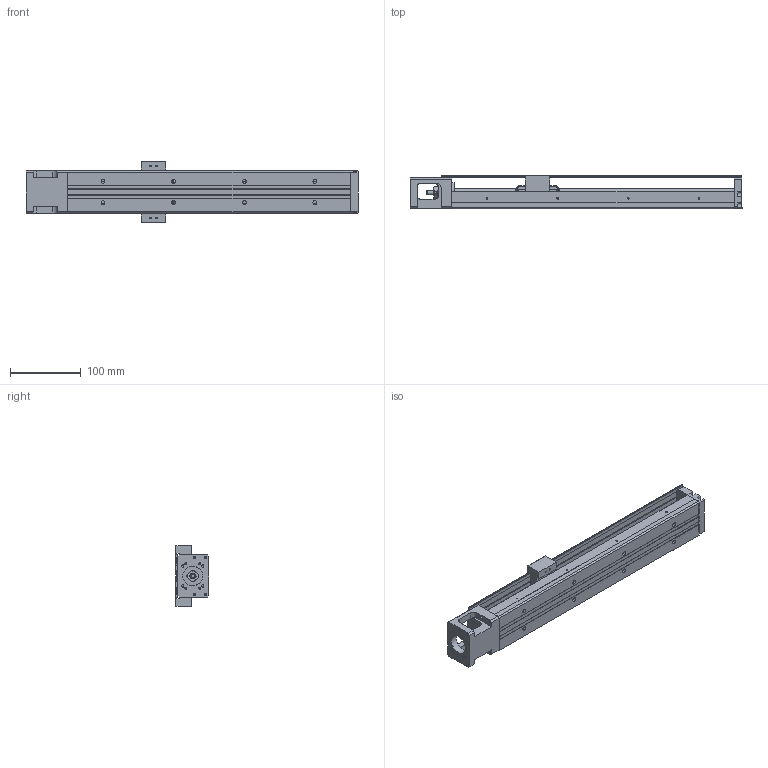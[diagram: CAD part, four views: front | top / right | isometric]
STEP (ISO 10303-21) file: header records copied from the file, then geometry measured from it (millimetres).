
FILE_DESCRIPTION(/* description */ (''),/* implementation_level */ '2;1');
FILE_NAME(/* name */ 'KP33S-400-C.stp',/* time_stamp */ '2020-06-04T17:55:04+08:00',/* author */ (''),/* organization */ (''),/* preprocessor_version */ 'ST-DEVELOPER v14',/* originating_system */ 'SIEMENS PLM Software NX 8.0',/* authorisation */ '');
FILE_SCHEMA (('AUTOMOTIVE_DESIGN { 1 0 10303 214 3 1 1 1 }'));
Length unit declared in the file: millimetre
Products named in the file (1): model1
Bounding box: 470 x 47.95 x 86 mm (x, y, z)
Volume: 599373.9 mm3; surface area: 214517 mm2
Topology: 7 solids, 16 shells, 710 faces, 1802 edges, 1190 vertices
Faces by surface type: plane 424, cylinder 201, bspline 31, cone 22, extrusion 21, torus 9, revolution 2
Full cylindrical faces by diameter (mm): 1.6 x4, 1.65 x4, 2.15 x8, 2.42 x4, 2.45 x8, 2.5 x16, 3.2 x4, 3.3 x4, 3.4 x4, 3.5 x10, 3.969 x1, 4 x4, 4.001 x1, 4.135 x2, 4.2 x2, 5.5 x8, 6 x5, 7.6 x1, 8 x5, 9.5 x8, 10.72 x3, 11.8 x2, 12 x6, 12.8 x1, 13 x2, 14 x1, 17.38 x3, 21.5 x1, 22 x2, 28 x1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
Entity records: 36536 total; most frequent: CARTESIAN_POINT 16528, DIRECTION 3226, ORIENTED_EDGE 3130, EDGE_CURVE 1565, AXIS2_PLACEMENT_3D 1131, VERTEX_POINT 1111, EDGE_LOOP 1004, VECTOR 962
